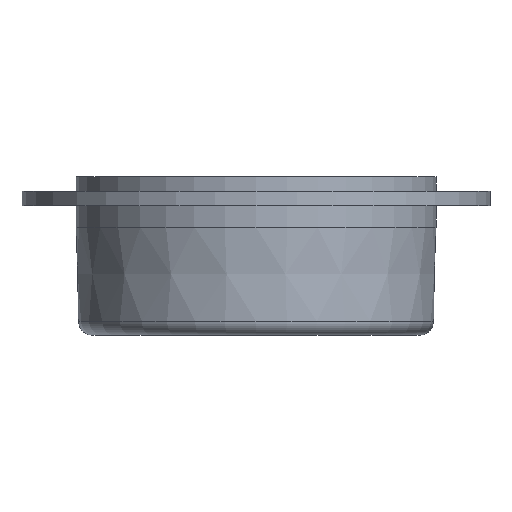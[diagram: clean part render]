
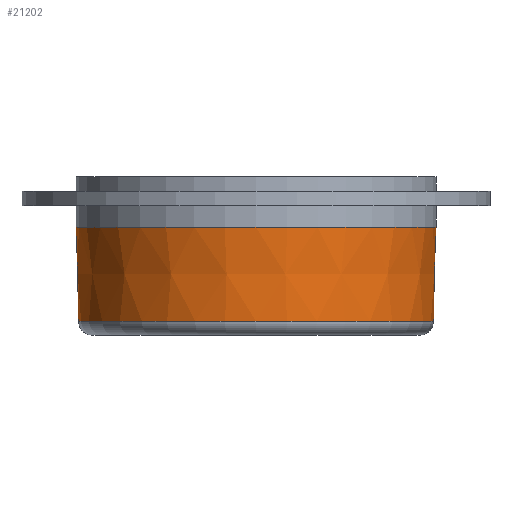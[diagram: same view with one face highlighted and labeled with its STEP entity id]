
A CAD part, left-side view. The second image highlights one B-rep face of the part: STEP entity #21202.
In plain terms, the highlighted conical face has half-angle 1.432 degrees and reference radius 24.625 mm.
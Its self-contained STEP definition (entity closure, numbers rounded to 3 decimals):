
#797=CONICAL_SURFACE('',#21876,24.625,0.025);
#845=CIRCLE('',#21875,24.674);
#846=CIRCLE('',#21877,25.);
#3982=VERTEX_POINT('',#35047);
#3983=VERTEX_POINT('',#35050);
#10295=EDGE_CURVE('',#3982,#3982,#845,.T.);
#10296=EDGE_CURVE('',#3983,#3983,#846,.T.);
#15892=ORIENTED_EDGE('',*,*,#10296,.T.);
#15893=ORIENTED_EDGE('',*,*,#10295,.F.);
#18669=EDGE_LOOP('',(#15892));
#18670=EDGE_LOOP('',(#15893));
#19976=FACE_BOUND('',#18669,.T.);
#19977=FACE_BOUND('',#18670,.T.);
#21202=ADVANCED_FACE('',(#19976,#19977),#797,.T.);
#21875=AXIS2_PLACEMENT_3D('',#35046,#23714,#23715);
#21876=AXIS2_PLACEMENT_3D('',#35048,#23716,#23717);
#21877=AXIS2_PLACEMENT_3D('',#35049,#23718,#23719);
#23714=DIRECTION('',(0.,0.,-1.));
#23715=DIRECTION('',(-24.674,0.,0.));
#23716=DIRECTION('',(0.,0.,1.));
#23717=DIRECTION('',(-24.625,0.,0.));
#23718=DIRECTION('',(0.,0.,-1.));
#23719=DIRECTION('',(-25.,0.,0.));
#35046=CARTESIAN_POINT('',(1.538,0.,1.95));
#35047=CARTESIAN_POINT('',(26.212,0.,1.95));
#35048=CARTESIAN_POINT('',(1.538,0.,0.));
#35049=CARTESIAN_POINT('',(1.538,0.,15.));
#35050=CARTESIAN_POINT('',(26.538,0.,15.));
